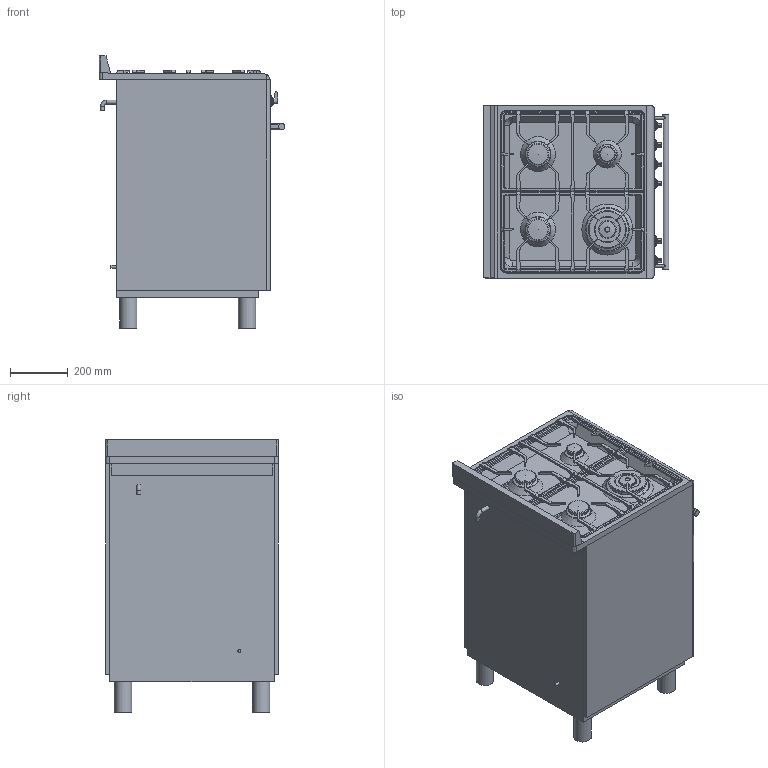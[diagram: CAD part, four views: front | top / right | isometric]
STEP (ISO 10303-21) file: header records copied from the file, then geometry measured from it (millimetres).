
FILE_DESCRIPTION(/* description */ (''),/* implementation_level */ '2;1');
FILE_NAME(/* name */ 'FS61XNG8-1.stp',/* time_stamp */ '2021-08-04T09:20:31+02:00',/* author */ (''),/* organization */ (''),/* preprocessor_version */ 'ST-DEVELOPER v16',/* originating_system */ 'SIEMENS PLM Software NX 11.0',/* authorisation */ '');
FILE_SCHEMA (('AUTOMOTIVE_DESIGN { 1 0 10303 214 3 1 1 1 }'));
Length unit declared in the file: millimetre
Products named in the file (1): mart2A24A3A6ayl5
Bounding box: 643 x 598 x 941.87 mm (x, y, z)
Volume: 38327285 mm3; surface area: 8024551.7 mm2
Topology: 49 solids, 51 shells, 874 faces, 2128 edges, 1375 vertices
Faces by surface type: plane 497, cylinder 202, extrusion 67, torus 60, cone 41, bspline 5, sphere 2
Full cylindrical faces by diameter (mm): 2.8 x2, 4 x2, 4.608 x6, 6 x6, 7 x2, 10 x1, 14 x2, 14.996 x6, 17 x6, 22 x7, 55 x1, 60 x4, 60.611 x1, 65.5 x1, 75 x2, 85.5 x2, 85.7 x1, 131 x1, 147 x1
Entity records: 25631 total; most frequent: CARTESIAN_POINT 4819, DIRECTION 4340, ORIENTED_EDGE 3926, EDGE_CURVE 1967, AXIS2_PLACEMENT_3D 1492, VECTOR 1356, VERTEX_POINT 1355, LINE 1289
